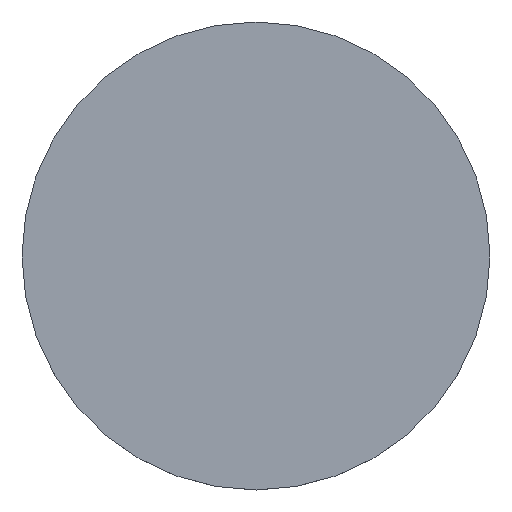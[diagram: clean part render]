
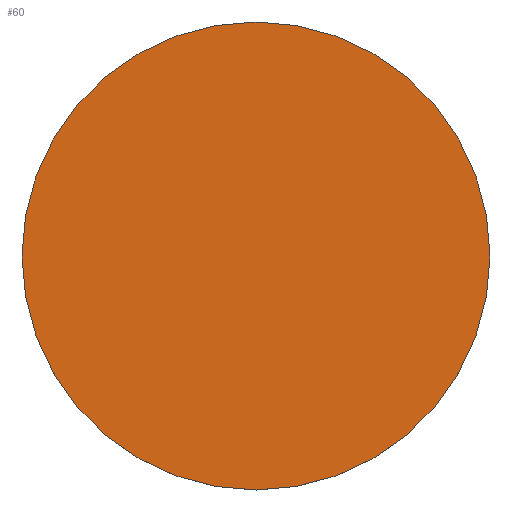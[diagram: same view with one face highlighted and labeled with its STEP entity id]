
A CAD part, top view. The second image highlights one B-rep face of the part: STEP entity #60.
In plain terms, the highlighted planar face has unit normal (0, 0, 1).
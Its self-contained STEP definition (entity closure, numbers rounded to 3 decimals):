
#60=ADVANCED_FACE('',(#74),#75,.T.);
#74=FACE_OUTER_BOUND('',#88,.T.);
#75=PLANE('',#89);
#88=EDGE_LOOP('',(#128,#129));
#89=AXIS2_PLACEMENT_3D('',#130,#131,#132);
#128=ORIENTED_EDGE('',*,*,#141,.T.);
#129=ORIENTED_EDGE('',*,*,#142,.T.);
#130=CARTESIAN_POINT('',(0.0,0.0,5.5));
#131=DIRECTION('',(0.0,0.0,1.0));
#132=DIRECTION('',(1.0,0.0,0.0));
#141=EDGE_CURVE('',#154,#158,#160,.T.);
#142=EDGE_CURVE('',#158,#154,#161,.T.);
#154=VERTEX_POINT('',#173);
#158=VERTEX_POINT('',#178);
#160=CIRCLE('',#181,10.0);
#161=CIRCLE('',#182,10.0);
#173=CARTESIAN_POINT('',(10.0,0.0,5.5));
#178=CARTESIAN_POINT('',(-10.0,0.,5.5));
#181=AXIS2_PLACEMENT_3D('',#204,#205,#206);
#182=AXIS2_PLACEMENT_3D('',#207,#208,#209);
#204=CARTESIAN_POINT('',(0.0,0.0,5.5));
#205=DIRECTION('',(0.0,0.0,1.0));
#206=DIRECTION('',(1.0,0.0,0.0));
#207=CARTESIAN_POINT('',(0.0,0.0,5.5));
#208=DIRECTION('',(0.0,0.0,1.0));
#209=DIRECTION('',(1.0,0.0,0.0));
